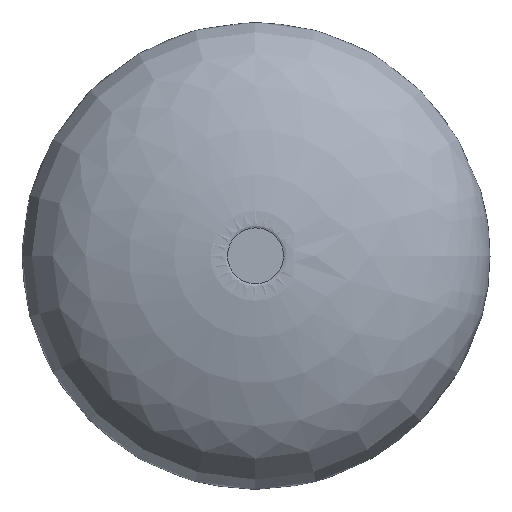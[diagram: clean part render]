
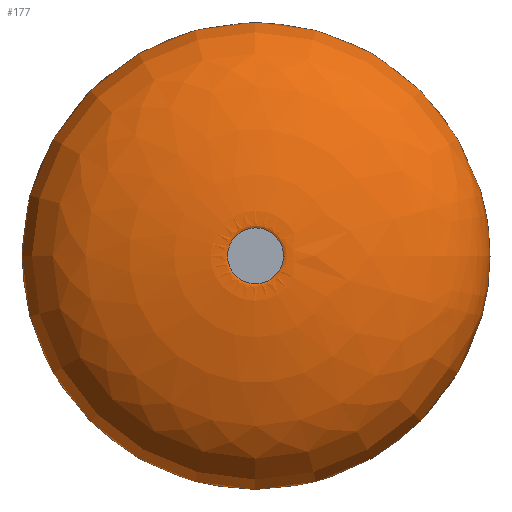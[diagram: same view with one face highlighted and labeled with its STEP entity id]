
A CAD part, top view. The second image highlights one B-rep face of the part: STEP entity #177.
In plain terms, the highlighted free-form (B-spline) face has degree [13, 3] with [14, 5] control points.
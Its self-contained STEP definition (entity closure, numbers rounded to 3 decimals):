
#22 = VERTEX_POINT('',#23);
#23 = CARTESIAN_POINT('',(22.56,6.58,12.36));
#32 = SURFACE_OF_LINEAR_EXTRUSION('',#33,#38);
#33 = ELLIPSE('',#34,3.06,3.06);
#34 = AXIS2_PLACEMENT_3D('',#35,#36,#37);
#35 = CARTESIAN_POINT('',(19.5,6.58,12.36));
#36 = DIRECTION('',(0.,0.,1.));
#37 = DIRECTION('',(1.,-0.,-0.));
#38 = VECTOR('',#39,1.);
#39 = DIRECTION('',(-0.,-0.,1.));
#86 = EDGE_CURVE('',#22,#22,#87,.T.);
#87 = SURFACE_CURVE('',#88,(#93,#100),.PCURVE_S1.);
#88 = ELLIPSE('',#89,3.06,3.06);
#89 = AXIS2_PLACEMENT_3D('',#90,#91,#92);
#90 = CARTESIAN_POINT('',(19.5,6.58,12.36));
#91 = DIRECTION('',(0.,0.,1.));
#92 = DIRECTION('',(1.,-0.,-0.));
#93 = PCURVE('',#32,#94);
#94 = DEFINITIONAL_REPRESENTATION('',(#95),#99);
#95 = LINE('',#96,#97);
#96 = CARTESIAN_POINT('',(0.,0.));
#97 = VECTOR('',#98,1.);
#98 = DIRECTION('',(1.,0.));
#99 = ( GEOMETRIC_REPRESENTATION_CONTEXT(2) 
PARAMETRIC_REPRESENTATION_CONTEXT() REPRESENTATION_CONTEXT('2D SPACE',''
  ) );
#100 = PCURVE('',#101,#172);
#101 = ( BOUNDED_SURFACE() B_SPLINE_SURFACE(13,3,(
    (#102,#103,#104,#105,#106)
    ,(#107,#108,#109,#110,#111)
    ,(#112,#113,#114,#115,#116)
    ,(#117,#118,#119,#120,#121)
    ,(#122,#123,#124,#125,#126)
    ,(#127,#128,#129,#130,#131)
    ,(#132,#133,#134,#135,#136)
    ,(#137,#138,#139,#140,#141)
    ,(#142,#143,#144,#145,#146)
    ,(#147,#148,#149,#150,#151)
    ,(#152,#153,#154,#155,#156)
    ,(#157,#158,#159,#160,#161)
    ,(#162,#163,#164,#165,#166)
    ,(#167,#168,#169,#170,#171
)),.UNSPECIFIED.,.T.,.F.,.F.) B_SPLINE_SURFACE_WITH_KNOTS((14,14),(4,1,4
),(0.,1.),(0.,0.5,1.),.UNSPECIFIED.) GEOMETRIC_REPRESENTATION_ITEM() 
RATIONAL_B_SPLINE_SURFACE((
    (1.,1.,1.,1.,1.)
    ,(1.,1.,1.,1.,1.)
    ,(1.,1.,1.,1.,1.)
    ,(1.,1.,1.,1.,1.)
    ,(1.,1.,1.,1.,1.)
    ,(1.,1.,1.,1.,1.)
    ,(1.,1.,1.,1.,1.)
    ,(1.,1.,1.,1.,1.)
    ,(1.,1.,1.,1.,1.)
    ,(1.,1.,1.,1.,1.)
    ,(1.,1.,1.,1.,1.)
    ,(1.,1.,1.,1.,1.)
    ,(1.,1.,1.,1.,1.)
,(1.,1.,1.,1.,1.))) REPRESENTATION_ITEM('') SURFACE() );
#102 = CARTESIAN_POINT('',(22.56,6.58,12.36));
#103 = CARTESIAN_POINT('',(22.655,6.58,12.68));
#104 = CARTESIAN_POINT('',(22.172,6.58,13.721));
#105 = CARTESIAN_POINT('',(19.935,6.58,14.048));
#106 = CARTESIAN_POINT('',(19.867,6.58,13.98));
#107 = CARTESIAN_POINT('',(22.56,8.059,12.36));
#108 = CARTESIAN_POINT('',(22.655,8.105,12.68));
#109 = CARTESIAN_POINT('',(22.172,7.872,13.721));
#110 = CARTESIAN_POINT('',(19.935,6.79,14.048));
#111 = CARTESIAN_POINT('',(19.867,6.757,13.98));
#112 = CARTESIAN_POINT('',(21.786,9.538,12.36));
#113 = CARTESIAN_POINT('',(21.857,9.63,12.68));
#114 = CARTESIAN_POINT('',(21.496,9.163,13.721));
#115 = CARTESIAN_POINT('',(19.825,7.001,14.048));
#116 = CARTESIAN_POINT('',(19.774,6.935,13.98));
#117 = CARTESIAN_POINT('',(20.237,10.575,12.36));
#118 = CARTESIAN_POINT('',(20.26,10.699,12.68));
#119 = CARTESIAN_POINT('',(20.144,10.069,13.721));
#120 = CARTESIAN_POINT('',(19.605,7.148,14.048));
#121 = CARTESIAN_POINT('',(19.588,7.059,13.98));
#122 = CARTESIAN_POINT('',(18.191,10.727,12.36));
#123 = CARTESIAN_POINT('',(18.151,10.856,12.68));
#124 = CARTESIAN_POINT('',(18.357,10.201,13.721));
#125 = CARTESIAN_POINT('',(19.314,7.17,14.048));
#126 = CARTESIAN_POINT('',(19.343,7.078,13.98));
#127 = CARTESIAN_POINT('',(16.206,9.745,12.36));
#128 = CARTESIAN_POINT('',(16.104,9.844,12.68));
#129 = CARTESIAN_POINT('',(16.623,9.345,13.721));
#130 = CARTESIAN_POINT('',(19.032,7.03,14.048));
#131 = CARTESIAN_POINT('',(19.105,6.96,13.98));
#132 = CARTESIAN_POINT('',(14.96,7.772,12.36));
#133 = CARTESIAN_POINT('',(14.819,7.809,12.68));
#134 = CARTESIAN_POINT('',(15.535,7.621,13.721));
#135 = CARTESIAN_POINT('',(18.854,6.75,14.048));
#136 = CARTESIAN_POINT('',(18.955,6.723,13.98));
#137 = CARTESIAN_POINT('',(14.96,5.388,12.36));
#138 = CARTESIAN_POINT('',(14.819,5.351,12.68));
#139 = CARTESIAN_POINT('',(15.535,5.539,13.721));
#140 = CARTESIAN_POINT('',(18.854,6.41,14.048));
#141 = CARTESIAN_POINT('',(18.955,6.437,13.98));
#142 = CARTESIAN_POINT('',(16.206,3.415,12.36));
#143 = CARTESIAN_POINT('',(16.104,3.316,12.68));
#144 = CARTESIAN_POINT('',(16.623,3.815,13.721));
#145 = CARTESIAN_POINT('',(19.032,6.13,14.048));
#146 = CARTESIAN_POINT('',(19.105,6.2,13.98));
#147 = CARTESIAN_POINT('',(18.191,2.433,12.36));
#148 = CARTESIAN_POINT('',(18.151,2.304,12.68));
#149 = CARTESIAN_POINT('',(18.357,2.959,13.721));
#150 = CARTESIAN_POINT('',(19.314,5.99,14.048));
#151 = CARTESIAN_POINT('',(19.343,6.082,13.98));
#152 = CARTESIAN_POINT('',(20.237,2.585,12.36));
#153 = CARTESIAN_POINT('',(20.26,2.461,12.68));
#154 = CARTESIAN_POINT('',(20.144,3.091,13.721));
#155 = CARTESIAN_POINT('',(19.605,6.012,14.048));
#156 = CARTESIAN_POINT('',(19.588,6.101,13.98));
#157 = CARTESIAN_POINT('',(21.786,3.622,12.36));
#158 = CARTESIAN_POINT('',(21.857,3.53,12.68));
#159 = CARTESIAN_POINT('',(21.496,3.997,13.721));
#160 = CARTESIAN_POINT('',(19.825,6.159,14.048));
#161 = CARTESIAN_POINT('',(19.774,6.225,13.98));
#162 = CARTESIAN_POINT('',(22.56,5.101,12.36));
#163 = CARTESIAN_POINT('',(22.655,5.055,12.68));
#164 = CARTESIAN_POINT('',(22.172,5.288,13.721));
#165 = CARTESIAN_POINT('',(19.935,6.37,14.048));
#166 = CARTESIAN_POINT('',(19.867,6.403,13.98));
#167 = CARTESIAN_POINT('',(22.56,6.58,12.36));
#168 = CARTESIAN_POINT('',(22.655,6.58,12.68));
#169 = CARTESIAN_POINT('',(22.172,6.58,13.721));
#170 = CARTESIAN_POINT('',(19.935,6.58,14.048));
#171 = CARTESIAN_POINT('',(19.867,6.58,13.98));
#172 = DEFINITIONAL_REPRESENTATION('',(#173),#176);
#173 = B_SPLINE_CURVE_WITH_KNOTS('',1,(#174,#175),.UNSPECIFIED.,.F.,.F.,
  (2,2),(0.,6.283),.PIECEWISE_BEZIER_KNOTS.);
#174 = CARTESIAN_POINT('',(0.,0.));
#175 = CARTESIAN_POINT('',(1.,0.));
#176 = ( GEOMETRIC_REPRESENTATION_CONTEXT(2) 
PARAMETRIC_REPRESENTATION_CONTEXT() REPRESENTATION_CONTEXT('2D SPACE',''
  ) );
#177 = ADVANCED_FACE('',(#178),#101,.T.);
#178 = FACE_BOUND('',#179,.T.);
#179 = EDGE_LOOP('',(#180,#181,#206,#254));
#180 = ORIENTED_EDGE('',*,*,#86,.T.);
#181 = ORIENTED_EDGE('',*,*,#182,.T.);
#182 = EDGE_CURVE('',#22,#183,#185,.T.);
#183 = VERTEX_POINT('',#184);
#184 = CARTESIAN_POINT('',(19.867,6.58,13.98));
#185 = SEAM_CURVE('',#186,(#192,#199),.PCURVE_S1.);
#186 = ( BOUNDED_CURVE() B_SPLINE_CURVE(3,(#187,#188,#189,#190,#191),
.UNSPECIFIED.,.F.,.F.) B_SPLINE_CURVE_WITH_KNOTS((4,1,4),(0.,0.5,1.),
.QUASI_UNIFORM_KNOTS.) CURVE() GEOMETRIC_REPRESENTATION_ITEM() 
RATIONAL_B_SPLINE_CURVE((1.,1.,1.,1.,1.)) REPRESENTATION_ITEM('') );
#187 = CARTESIAN_POINT('',(22.56,6.58,12.36));
#188 = CARTESIAN_POINT('',(22.655,6.58,12.68));
#189 = CARTESIAN_POINT('',(22.172,6.58,13.721));
#190 = CARTESIAN_POINT('',(19.935,6.58,14.048));
#191 = CARTESIAN_POINT('',(19.867,6.58,13.98));
#192 = PCURVE('',#101,#193);
#193 = DEFINITIONAL_REPRESENTATION('',(#194),#198);
#194 = LINE('',#195,#196);
#195 = CARTESIAN_POINT('',(1.,0.));
#196 = VECTOR('',#197,1.);
#197 = DIRECTION('',(0.,1.));
#198 = ( GEOMETRIC_REPRESENTATION_CONTEXT(2) 
PARAMETRIC_REPRESENTATION_CONTEXT() REPRESENTATION_CONTEXT('2D SPACE',''
  ) );
#199 = PCURVE('',#101,#200);
#200 = DEFINITIONAL_REPRESENTATION('',(#201),#205);
#201 = LINE('',#202,#203);
#202 = CARTESIAN_POINT('',(0.,0.));
#203 = VECTOR('',#204,1.);
#204 = DIRECTION('',(0.,1.));
#205 = ( GEOMETRIC_REPRESENTATION_CONTEXT(2) 
PARAMETRIC_REPRESENTATION_CONTEXT() REPRESENTATION_CONTEXT('2D SPACE',''
  ) );
#206 = ORIENTED_EDGE('',*,*,#207,.F.);
#207 = EDGE_CURVE('',#183,#183,#208,.T.);
#208 = SURFACE_CURVE('',#209,(#224,#231),.PCURVE_S1.);
#209 = B_SPLINE_CURVE_WITH_KNOTS('',13,(#210,#211,#212,#213,#214,#215,
    #216,#217,#218,#219,#220,#221,#222,#223),.UNSPECIFIED.,.T.,.F.,(14,
    14),(0.,1.),.PIECEWISE_BEZIER_KNOTS.);
#210 = CARTESIAN_POINT('',(19.867,6.58,13.98));
#211 = CARTESIAN_POINT('',(19.867,6.757,13.98));
#212 = CARTESIAN_POINT('',(19.774,6.935,13.98));
#213 = CARTESIAN_POINT('',(19.588,7.059,13.98));
#214 = CARTESIAN_POINT('',(19.343,7.078,13.98));
#215 = CARTESIAN_POINT('',(19.105,6.96,13.98));
#216 = CARTESIAN_POINT('',(18.955,6.723,13.98));
#217 = CARTESIAN_POINT('',(18.955,6.437,13.98));
#218 = CARTESIAN_POINT('',(19.105,6.2,13.98));
#219 = CARTESIAN_POINT('',(19.343,6.082,13.98));
#220 = CARTESIAN_POINT('',(19.588,6.101,13.98));
#221 = CARTESIAN_POINT('',(19.774,6.225,13.98));
#222 = CARTESIAN_POINT('',(19.867,6.403,13.98));
#223 = CARTESIAN_POINT('',(19.867,6.58,13.98));
#224 = PCURVE('',#101,#225);
#225 = DEFINITIONAL_REPRESENTATION('',(#226),#230);
#226 = LINE('',#227,#228);
#227 = CARTESIAN_POINT('',(0.,1.));
#228 = VECTOR('',#229,1.);
#229 = DIRECTION('',(1.,0.));
#230 = ( GEOMETRIC_REPRESENTATION_CONTEXT(2) 
PARAMETRIC_REPRESENTATION_CONTEXT() REPRESENTATION_CONTEXT('2D SPACE',''
  ) );
#231 = PCURVE('',#232,#237);
#232 = PLANE('',#233);
#233 = AXIS2_PLACEMENT_3D('',#234,#235,#236);
#234 = CARTESIAN_POINT('',(19.867,6.58,13.98));
#235 = DIRECTION('',(-0.,0.,1.));
#236 = DIRECTION('',(0.993,0.121,0.));
#237 = DEFINITIONAL_REPRESENTATION('',(#238),#253);
#238 = B_SPLINE_CURVE_WITH_KNOTS('',13,(#239,#240,#241,#242,#243,#244,
    #245,#246,#247,#248,#249,#250,#251,#252),.UNSPECIFIED.,.T.,.F.,(14,
    14),(0.,1.),.PIECEWISE_BEZIER_KNOTS.);
#239 = CARTESIAN_POINT('',(0.,0.));
#240 = CARTESIAN_POINT('',(0.021,0.176));
#241 = CARTESIAN_POINT('',(-0.049,0.364));
#242 = CARTESIAN_POINT('',(-0.219,0.509));
#243 = CARTESIAN_POINT('',(-0.46,0.557));
#244 = CARTESIAN_POINT('',(-0.711,0.469));
#245 = CARTESIAN_POINT('',(-0.888,0.252));
#246 = CARTESIAN_POINT('',(-0.923,-0.032));
#247 = CARTESIAN_POINT('',(-0.803,-0.285));
#248 = CARTESIAN_POINT('',(-0.58,-0.431));
#249 = CARTESIAN_POINT('',(-0.335,-0.442));
#250 = CARTESIAN_POINT('',(-0.135,-0.341));
#251 = CARTESIAN_POINT('',(-0.021,-0.176));
#252 = CARTESIAN_POINT('',(0.,0.));
#253 = ( GEOMETRIC_REPRESENTATION_CONTEXT(2) 
PARAMETRIC_REPRESENTATION_CONTEXT() REPRESENTATION_CONTEXT('2D SPACE',''
  ) );
#254 = ORIENTED_EDGE('',*,*,#182,.F.);
